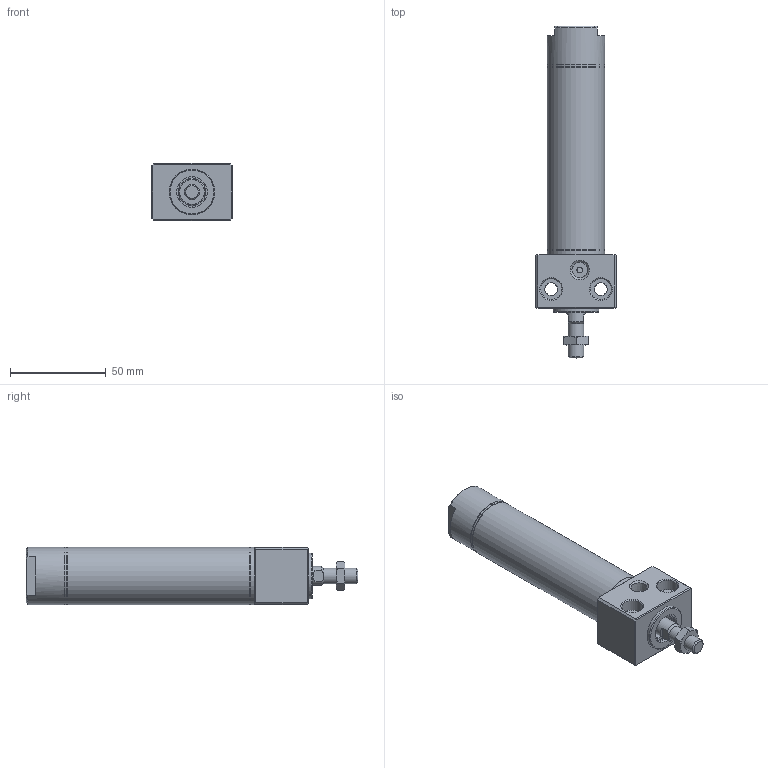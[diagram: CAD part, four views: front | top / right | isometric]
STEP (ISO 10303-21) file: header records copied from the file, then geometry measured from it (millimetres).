
FILE_DESCRIPTION((''),'2;1');
FILE_NAME('I:\3D電子目錄\氣缸\DBS\DBS\DBS25x50.stp','2007-10-08T08:34:04',('Administrator'),(''),'Autodesk Inventor 2008','Autodesk Inventor 2008','');
FILE_SCHEMA(('AUTOMOTIVE_DESIGN { 1 0 10303 214 1 1 1 1 }'));
Length unit declared in the file: millimetre
Products named in the file (1): DBS25x50
Bounding box: 42 x 173.6 x 30 mm (x, y, z)
Volume: 75254.3 mm3; surface area: 36225.9 mm2
Topology: 6 solids, 6 shells, 163 faces, 317 edges, 192 vertices
Faces by surface type: plane 72, cone 41, cylinder 35, bspline 12, torus 3
Full cylindrical faces by diameter (mm): 3 x1, 5 x1, 6 x1, 7 x1, 8 x2, 10 x1, 10.5 x1, 12 x1, 13 x2, 14 x1, 15.5 x2, 16 x2, 17 x1, 18 x2, 23 x2, 24 x1, 25 x1, 25.5 x2, 27.2 x6, 30 x4
Entity records: 3973 total; most frequent: CARTESIAN_POINT 911, DIRECTION 644, ORIENTED_EDGE 484, AXIS2_PLACEMENT_3D 284, EDGE_LOOP 278, EDGE_CURVE 242, VERTEX_POINT 188, FACE_OUTER_BOUND 163
